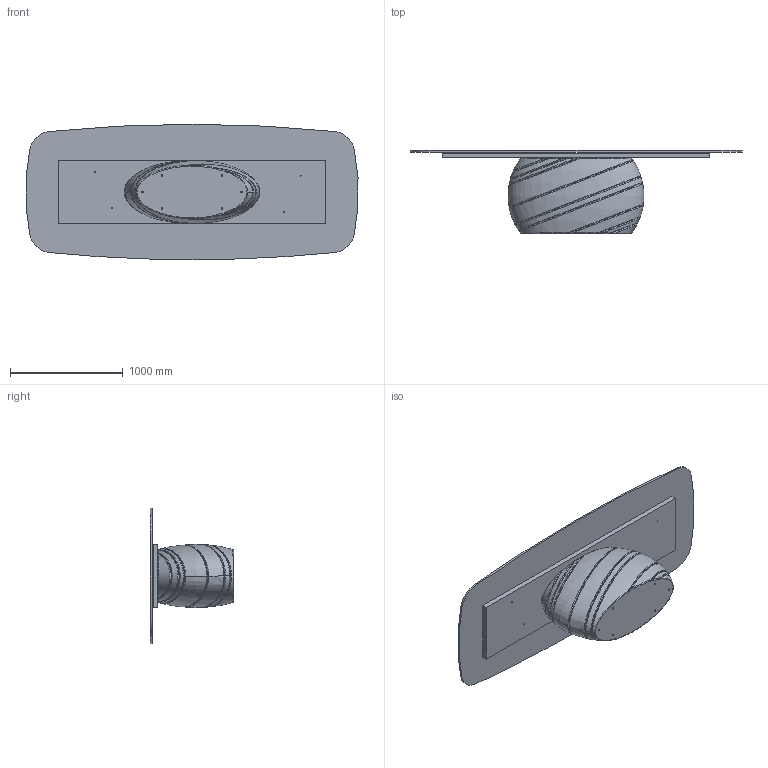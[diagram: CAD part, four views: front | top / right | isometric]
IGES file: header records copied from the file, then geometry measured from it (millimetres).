
Start section: SolidWorks IGES file using analytic representation for surfaces
Global section: file name: Y:\eforma\TECNICO\SOLIDWORKS\E-FORMA\1-TAVOLI\GIOVE\08 modelli 3D web\GI50G.IGS; native system: SolidWorks 2022; preprocessor: SolidWorks 2022; author: eforma.tech; date: 250422.161818; units: millimetre
Bounding box: 2941.59 x 737 x 1200 mm (x, y, z)
Volume: 419377184.6 mm3; surface area: 12387307.7 mm2
Topology: 3 solids, 3 shells, 153 faces, 372 edges, 240 vertices
Faces by surface type: revolution 69, bspline 53, plane 31
